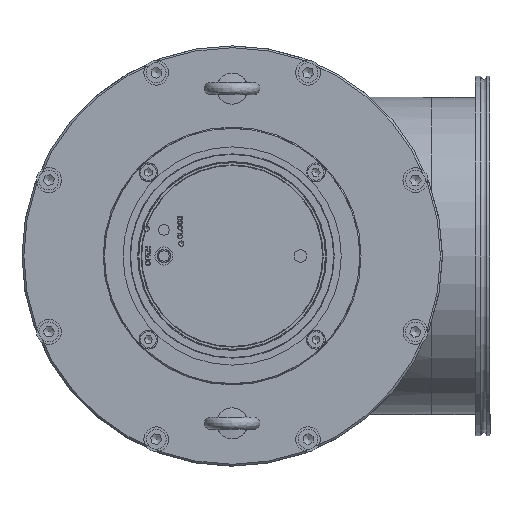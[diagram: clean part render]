
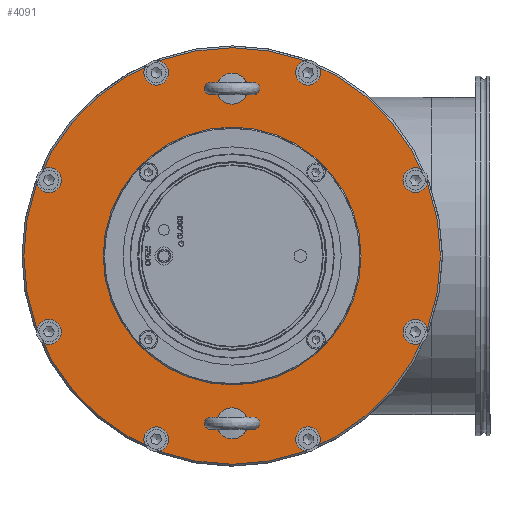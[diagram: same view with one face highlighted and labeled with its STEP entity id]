
A CAD part, left-side view. The second image highlights one B-rep face of the part: STEP entity #4091.
In plain terms, the highlighted planar face has unit normal (-1, 0, 0) as drawn and (0, 0, -1) by its records, which use the part's own axes.
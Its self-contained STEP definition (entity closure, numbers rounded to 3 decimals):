
#3708=FACE_BOUND('',#4839,.T.);
#3709=FACE_BOUND('',#4840,.T.);
#3710=FACE_BOUND('',#4841,.T.);
#3711=FACE_BOUND('',#4842,.T.);
#3712=FACE_BOUND('',#4843,.T.);
#3713=FACE_BOUND('',#4844,.T.);
#3714=FACE_BOUND('',#4845,.T.);
#3715=FACE_BOUND('',#4846,.T.);
#3716=FACE_BOUND('',#4847,.T.);
#3717=FACE_BOUND('',#4848,.T.);
#3718=FACE_BOUND('',#4849,.T.);
#3719=FACE_BOUND('',#4850,.T.);
#3720=FACE_BOUND('',#4851,.T.);
#3721=FACE_BOUND('',#4852,.T.);
#3722=FACE_BOUND('',#4853,.T.);
#3723=FACE_BOUND('',#4854,.T.);
#4091=ADVANCED_FACE('BCT_REF_50658',(#3708,#3709,#3710,#3711,#3712,#3713,
#3714,#3715,#3716,#3717,#3718,#3719,#3720,#3721,#3722,#3723),#4355,.F.);
#4355=PLANE('',#7704);
#4839=EDGE_LOOP('',(#5532));
#4840=EDGE_LOOP('',(#5533));
#4841=EDGE_LOOP('',(#5534));
#4842=EDGE_LOOP('',(#5535));
#4843=EDGE_LOOP('',(#5536));
#4844=EDGE_LOOP('',(#5537));
#4845=EDGE_LOOP('',(#5538));
#4846=EDGE_LOOP('',(#5539));
#4847=EDGE_LOOP('',(#5540));
#4848=EDGE_LOOP('',(#5541));
#4849=EDGE_LOOP('',(#5542));
#4850=EDGE_LOOP('',(#5543));
#4851=EDGE_LOOP('',(#5544));
#4852=EDGE_LOOP('',(#5545));
#4853=EDGE_LOOP('',(#5546));
#4854=EDGE_LOOP('',(#5547));
#5532=ORIENTED_EDGE('',*,*,#6844,.T.);
#5533=ORIENTED_EDGE('',*,*,#6845,.T.);
#5534=ORIENTED_EDGE('',*,*,#6846,.T.);
#5535=ORIENTED_EDGE('',*,*,#6847,.T.);
#5536=ORIENTED_EDGE('',*,*,#6848,.T.);
#5537=ORIENTED_EDGE('',*,*,#6849,.T.);
#5538=ORIENTED_EDGE('',*,*,#6850,.T.);
#5539=ORIENTED_EDGE('',*,*,#6851,.T.);
#5540=ORIENTED_EDGE('',*,*,#6852,.T.);
#5541=ORIENTED_EDGE('',*,*,#6853,.T.);
#5542=ORIENTED_EDGE('',*,*,#6854,.T.);
#5543=ORIENTED_EDGE('',*,*,#6855,.T.);
#5544=ORIENTED_EDGE('',*,*,#6856,.T.);
#5545=ORIENTED_EDGE('',*,*,#6857,.T.);
#5546=ORIENTED_EDGE('',*,*,#6858,.T.);
#5547=ORIENTED_EDGE('',*,*,#6859,.T.);
#6396=VERTEX_POINT('',#11067);
#6397=VERTEX_POINT('',#11069);
#6398=VERTEX_POINT('',#11071);
#6399=VERTEX_POINT('',#11073);
#6400=VERTEX_POINT('',#11075);
#6401=VERTEX_POINT('',#11077);
#6402=VERTEX_POINT('',#11079);
#6403=VERTEX_POINT('',#11081);
#6404=VERTEX_POINT('',#11083);
#6405=VERTEX_POINT('',#11085);
#6406=VERTEX_POINT('',#11087);
#6407=VERTEX_POINT('',#11089);
#6408=VERTEX_POINT('',#11091);
#6409=VERTEX_POINT('',#11093);
#6410=VERTEX_POINT('',#11095);
#6411=VERTEX_POINT('',#11097);
#6844=EDGE_CURVE('BCT_REF_75933',#6396,#6396,#7312,.T.);
#6845=EDGE_CURVE('BCT_REF_50675',#6397,#6397,#7313,.T.);
#6846=EDGE_CURVE('BCT_REF_50672',#6398,#6398,#7314,.T.);
#6847=EDGE_CURVE('BCT_REF_50642',#6399,#6399,#7315,.T.);
#6848=EDGE_CURVE('',#6400,#6400,#7316,.T.);
#6849=EDGE_CURVE('BCT_REF_50687',#6401,#6401,#7317,.T.);
#6850=EDGE_CURVE('',#6402,#6402,#7318,.T.);
#6851=EDGE_CURVE('',#6403,#6403,#7319,.T.);
#6852=EDGE_CURVE('',#6404,#6404,#7320,.T.);
#6853=EDGE_CURVE('',#6405,#6405,#7321,.T.);
#6854=EDGE_CURVE('',#6406,#6406,#7322,.T.);
#6855=EDGE_CURVE('',#6407,#6407,#7323,.T.);
#6856=EDGE_CURVE('',#6408,#6408,#7324,.T.);
#6857=EDGE_CURVE('',#6409,#6409,#7325,.T.);
#6858=EDGE_CURVE('',#6410,#6410,#7326,.T.);
#6859=EDGE_CURVE('',#6411,#6411,#7327,.T.);
#7312=CIRCLE('',#7688,168.);
#7313=CIRCLE('',#7689,88.75);
#7314=CIRCLE('',#7690,4.25);
#7315=CIRCLE('',#7691,4.25);
#7316=CIRCLE('',#7692,4.25);
#7317=CIRCLE('',#7693,4.25);
#7318=CIRCLE('',#7694,4.25);
#7319=CIRCLE('',#7695,4.25);
#7320=CIRCLE('',#7696,5.5);
#7321=CIRCLE('',#7697,5.5);
#7322=CIRCLE('',#7698,5.5);
#7323=CIRCLE('',#7699,5.5);
#7324=CIRCLE('',#7700,5.5);
#7325=CIRCLE('',#7701,5.5);
#7326=CIRCLE('',#7702,5.5);
#7327=CIRCLE('',#7703,5.5);
#7688=AXIS2_PLACEMENT_3D('',#11066,#8576,#8577);
#7689=AXIS2_PLACEMENT_3D('',#11068,#8578,#8579);
#7690=AXIS2_PLACEMENT_3D('',#11070,#8580,#8581);
#7691=AXIS2_PLACEMENT_3D('',#11072,#8582,#8583);
#7692=AXIS2_PLACEMENT_3D('',#11074,#8584,#8585);
#7693=AXIS2_PLACEMENT_3D('',#11076,#8586,#8587);
#7694=AXIS2_PLACEMENT_3D('',#11078,#8588,#8589);
#7695=AXIS2_PLACEMENT_3D('',#11080,#8590,#8591);
#7696=AXIS2_PLACEMENT_3D('',#11082,#8592,#8593);
#7697=AXIS2_PLACEMENT_3D('',#11084,#8594,#8595);
#7698=AXIS2_PLACEMENT_3D('',#11086,#8596,#8597);
#7699=AXIS2_PLACEMENT_3D('',#11088,#8598,#8599);
#7700=AXIS2_PLACEMENT_3D('',#11090,#8600,#8601);
#7701=AXIS2_PLACEMENT_3D('',#11092,#8602,#8603);
#7702=AXIS2_PLACEMENT_3D('',#11094,#8604,#8605);
#7703=AXIS2_PLACEMENT_3D('',#11096,#8606,#8607);
#7704=AXIS2_PLACEMENT_3D('',#11098,#8608,#8609);
#8576=DIRECTION('',(0.,0.,-1.));
#8577=DIRECTION('',(1.,0.,0.));
#8578=DIRECTION('',(0.,0.,1.));
#8579=DIRECTION('',(1.,0.,0.));
#8580=DIRECTION('',(0.,0.,1.));
#8581=DIRECTION('',(1.,0.,0.));
#8582=DIRECTION('',(0.,0.,1.));
#8583=DIRECTION('',(1.,0.,0.));
#8584=DIRECTION('',(0.,0.,1.));
#8585=DIRECTION('',(0.,-1.,0.));
#8586=DIRECTION('',(0.,0.,1.));
#8587=DIRECTION('',(-1.,0.,0.));
#8588=DIRECTION('',(0.,0.,1.));
#8589=DIRECTION('',(0.,1.,0.));
#8590=DIRECTION('',(0.,0.,1.));
#8591=DIRECTION('',(1.,0.,0.));
#8592=DIRECTION('',(0.,0.,1.));
#8593=DIRECTION('',(0.707,-0.707,0.));
#8594=DIRECTION('',(0.,0.,1.));
#8595=DIRECTION('',(0.,-1.,0.));
#8596=DIRECTION('',(0.,0.,1.));
#8597=DIRECTION('',(-0.707,-0.707,0.));
#8598=DIRECTION('',(0.,0.,1.));
#8599=DIRECTION('',(-1.,0.,0.));
#8600=DIRECTION('',(0.,0.,1.));
#8601=DIRECTION('',(-0.707,0.707,0.));
#8602=DIRECTION('',(0.,0.,1.));
#8603=DIRECTION('',(0.,1.,0.));
#8604=DIRECTION('',(0.,0.,1.));
#8605=DIRECTION('',(0.707,0.707,0.));
#8606=DIRECTION('',(0.,0.,1.));
#8607=DIRECTION('',(1.,0.,0.));
#8608=DIRECTION('',(0.,0.,1.));
#8609=DIRECTION('',(1.,0.,0.));
#11066=CARTESIAN_POINT('',(0.,0.,0.));
#11067=CARTESIAN_POINT('',(168.,0.,0.));
#11068=CARTESIAN_POINT('',(0.,0.,0.));
#11069=CARTESIAN_POINT('',(88.75,0.,0.));
#11070=CARTESIAN_POINT('',(0.,135.,0.));
#11071=CARTESIAN_POINT('',(4.25,135.,0.));
#11072=CARTESIAN_POINT('',(0.,-135.,0.));
#11073=CARTESIAN_POINT('',(4.25,-135.,0.));
#11074=CARTESIAN_POINT('',(-67.529,-67.529,0.));
#11075=CARTESIAN_POINT('',(-67.529,-71.779,0.));
#11076=CARTESIAN_POINT('',(-67.529,67.529,0.));
#11077=CARTESIAN_POINT('',(-71.779,67.529,0.));
#11078=CARTESIAN_POINT('',(67.529,67.529,0.));
#11079=CARTESIAN_POINT('',(67.529,71.779,0.));
#11080=CARTESIAN_POINT('',(67.529,-67.529,0.));
#11081=CARTESIAN_POINT('',(71.779,-67.529,0.));
#11082=CARTESIAN_POINT('',(61.229,-147.821,0.));
#11083=CARTESIAN_POINT('',(65.118,-151.71,0.));
#11084=CARTESIAN_POINT('',(-61.229,-147.821,0.));
#11085=CARTESIAN_POINT('',(-61.229,-153.321,0.));
#11086=CARTESIAN_POINT('',(-147.821,-61.229,0.));
#11087=CARTESIAN_POINT('',(-151.71,-65.118,0.));
#11088=CARTESIAN_POINT('',(-147.821,61.229,0.));
#11089=CARTESIAN_POINT('',(-153.321,61.229,0.));
#11090=CARTESIAN_POINT('',(-61.229,147.821,0.));
#11091=CARTESIAN_POINT('',(-65.118,151.71,0.));
#11092=CARTESIAN_POINT('',(61.229,147.821,0.));
#11093=CARTESIAN_POINT('',(61.229,153.321,0.));
#11094=CARTESIAN_POINT('',(147.821,61.229,0.));
#11095=CARTESIAN_POINT('',(151.71,65.118,0.));
#11096=CARTESIAN_POINT('',(147.821,-61.229,0.));
#11097=CARTESIAN_POINT('',(153.321,-61.229,0.));
#11098=CARTESIAN_POINT('',(169.5,0.,0.));
